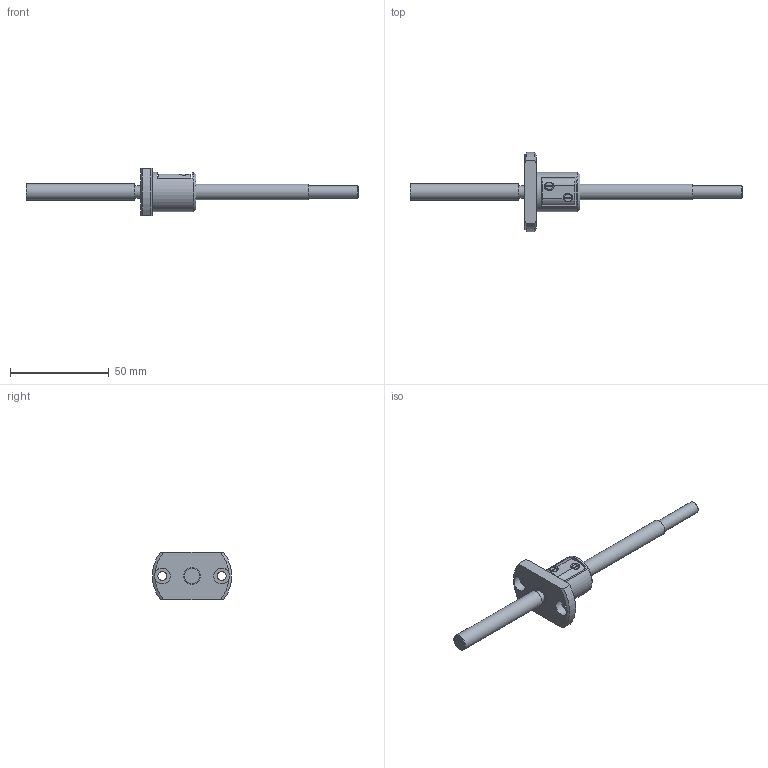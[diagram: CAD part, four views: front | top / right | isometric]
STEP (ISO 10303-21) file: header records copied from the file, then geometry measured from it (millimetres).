
FILE_DESCRIPTION(/* description */ ('STEP AP203'),/* implementation_level */ '2;1');
FILE_NAME(/* name */ 'MBF0802-3.7GT+168LC3A(0)',/* time_stamp */ '2024-07-15T08:03:20+02:00',/* author */ ('License CC BY-ND 4.0'),/* organization */ ('CADENAS'),/* preprocessor_version */ 'ST-DEVELOPER v19.3',/* originating_system */ 'PARTsolutions',/* authorisation */ ' ');
FILE_SCHEMA (('CONFIG_CONTROL_DESIGN'));
Length unit declared in the file: millimetre
Products named in the file (3): MBF0802-3.7GT+168LC3A(0); MBF0802-3.7GT+168LC3A(.0)_shaft; MBF 0802-3.7_nut
Assembly tree (2 placements, depth 2):
  MBF0802-3.7GT+168LC3A(0)
    MBF0802-3.7GT+168LC3A(.0)_shaft
    MBF 0802-3.7_nut
Bounding box: 168 x 40 x 24 mm (x, y, z)
Volume: 18257.1 mm3; surface area: 8944.3 mm2
Topology: 2 solids, 2 shells, 63 faces, 154 edges, 101 vertices
Faces by surface type: plane 32, cylinder 18, cone 13
Full cylindrical faces by diameter (mm): 4.5 x2, 6.2 x2, 8 x4, 8.3 x1, 20 x1
Entity records: 1875 total; most frequent: CARTESIAN_POINT 400, DIRECTION 288, ORIENTED_EDGE 270, EDGE_CURVE 135, AXIS2_PLACEMENT_3D 119, VERTEX_POINT 97, EDGE_LOOP 90, FACE_BOUND 90
